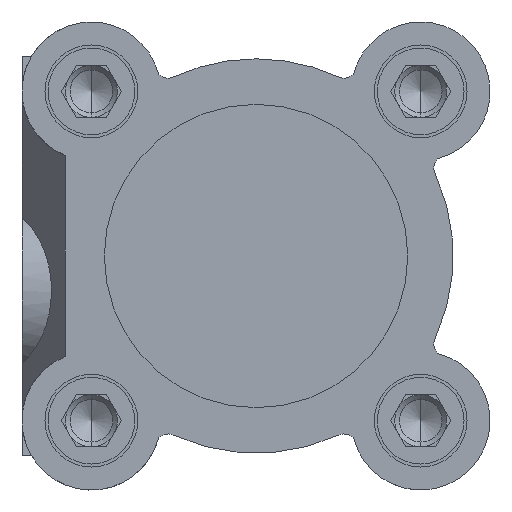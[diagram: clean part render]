
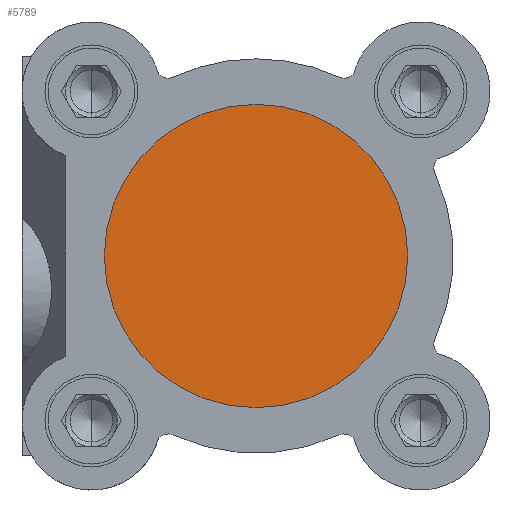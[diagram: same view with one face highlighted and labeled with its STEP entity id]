
A CAD part, left-side view. The second image highlights one B-rep face of the part: STEP entity #5789.
In plain terms, the highlighted planar face has unit normal (-1, 0, 0).
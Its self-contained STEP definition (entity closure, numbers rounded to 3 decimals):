
#1006 = EDGE_CURVE ( 'NONE', #6474, #10228, #2981, .T. ) ;
#1031 = CIRCLE ( 'NONE', #4069, 17.5 ) ;
#1082 = FACE_OUTER_BOUND ( 'NONE', #6104, .T. ) ;
#1178 = DIRECTION ( 'NONE',  ( 0., 0., 1. ) ) ;
#1591 = DIRECTION ( 'NONE',  ( 0., 0., 1. ) ) ;
#1645 = CARTESIAN_POINT ( 'NONE',  ( -209., 0., 0. ) ) ;
#1923 = DIRECTION ( 'NONE',  ( 1., 0., 0. ) ) ;
#2031 = AXIS2_PLACEMENT_3D ( 'NONE', #1645, #8580, #1591 ) ;
#2981 = CIRCLE ( 'NONE', #2031, 17.5 ) ;
#3010 = ORIENTED_EDGE ( 'NONE', *, *, #1006, .T. ) ;
#3713 = DIRECTION ( 'NONE',  ( 0., 0., -1. ) ) ;
#3946 = ORIENTED_EDGE ( 'NONE', *, *, #10648, .T. ) ;
#4069 = AXIS2_PLACEMENT_3D ( 'NONE', #4094, #5983, #1178 ) ;
#4094 = CARTESIAN_POINT ( 'NONE',  ( -209., 0., 0. ) ) ;
#5789 = ADVANCED_FACE ( 'NONE', ( #1082 ), #10945, .F. ) ;
#5983 = DIRECTION ( 'NONE',  ( -1., 0., 0. ) ) ;
#6104 = EDGE_LOOP ( 'NONE', ( #3946, #3010 ) ) ;
#6474 = VERTEX_POINT ( 'NONE', #10007 ) ;
#7430 = CARTESIAN_POINT ( 'NONE',  ( -209., 17.5, 0. ) ) ;
#8580 = DIRECTION ( 'NONE',  ( -1., 0., 0. ) ) ;
#8665 = CARTESIAN_POINT ( 'NONE',  ( -209., 0., 17.5 ) ) ;
#10007 = CARTESIAN_POINT ( 'NONE',  ( -209., 0., -17.5 ) ) ;
#10080 = AXIS2_PLACEMENT_3D ( 'NONE', #7430, #1923, #3713 ) ;
#10228 = VERTEX_POINT ( 'NONE', #8665 ) ;
#10648 = EDGE_CURVE ( 'NONE', #10228, #6474, #1031, .T. ) ;
#10945 = PLANE ( 'NONE',  #10080 ) ;
